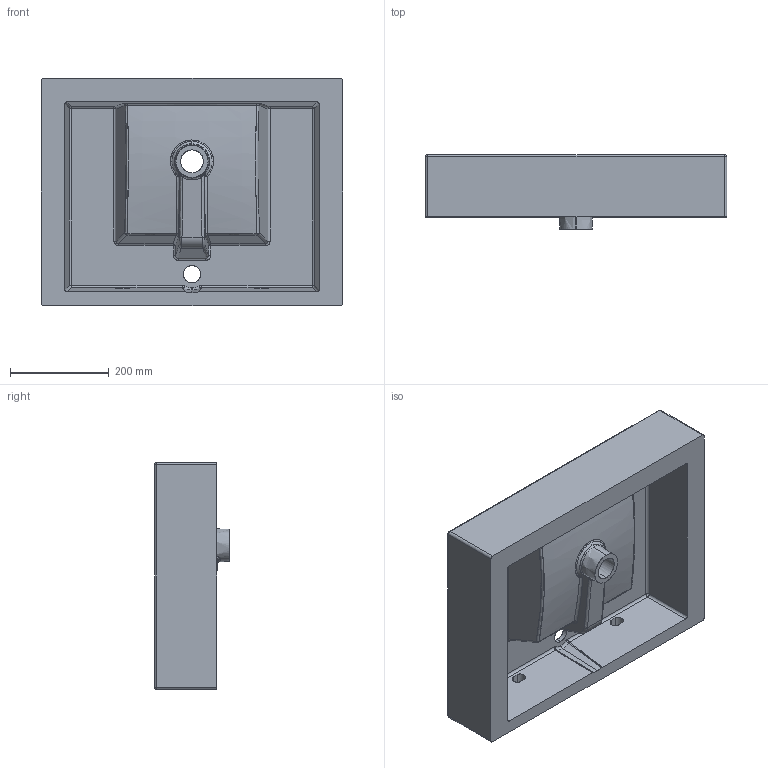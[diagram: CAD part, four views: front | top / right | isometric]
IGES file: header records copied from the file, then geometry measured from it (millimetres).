
Start section: SolidWorks IGES file using analytic representation for surfaces
Global section: file name: \\vmware-host\Shared Folders\Documenti\Lavoro\modifiche Tecla\3D-modifiche\TWENTY 61\PROJECT2017 60 Pdexsix.IGS; native system: SolidWorks 2017; preprocessor: SolidWorks 2017; author: silvia; date: 171109.154812; units: millimetre
Bounding box: 610 x 150 x 460 mm (x, y, z)
Surface area: 1116087.6 mm2 (no closed solid volume)
Topology: 0 solids, 0 shells, 189 faces, 2263 edges, 2253 vertices
Faces by surface type: bspline 95, revolution 94
